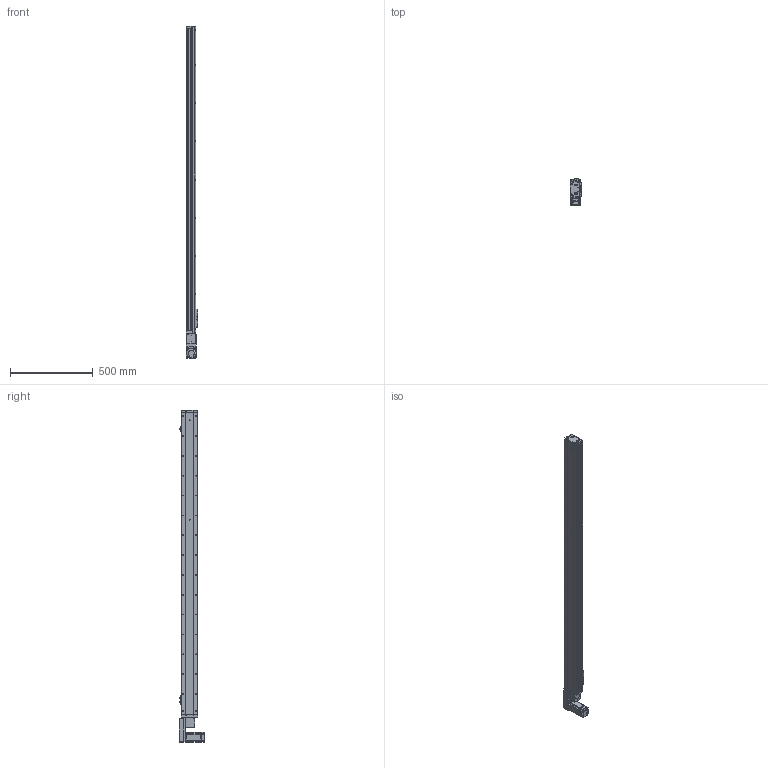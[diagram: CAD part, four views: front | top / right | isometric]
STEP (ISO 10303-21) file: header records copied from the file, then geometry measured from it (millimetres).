
FILE_DESCRIPTION (( 'STEP AP214' ), '1' );
FILE_NAME ('KSD100B-S1650-MLB-CR.STEP', '2019-11-13T01:21:36', ( '微软用户' ), ( '微软中国' ), 'SwSTEP 2.0', 'SolidWorks 2014', '' );
FILE_SCHEMA (( 'AUTOMOTIVE_DESIGN' ));
Length unit declared in the file: millimetre
Products named in the file (15): 100宽马达安装板连板上下折丝杆同步带; 感应片100宽全封闭; U倰嫖萇EEㄜSX672; 100宽马达安装板同步带左; 100遵鎮湛假蚾啣蜊; 100宽端板同步带全封闭; 100宽滚珠螺姆安装板1防护罩; 100宽滚珠螺姆安装板1; MHMD042G1CA_2_03; 100遵裔啣揤啣; 100遵裔啣1650俴最; 100宽侧板1650行程同步带; 100宽底板全封闭1650行程同步带; KSD100B-S1650-MLB-CR; 悵誘欶奻狟殏
Assembly tree (18 placements, depth 2):
  KSD100B-S1650-MLB-CR
    100宽底板全封闭1650行程同步带
    100宽侧板1650行程同步带  x2
    100遵裔啣1650俴最
    100遵裔啣揤啣  x2
    100宽滚珠螺姆安装板1
    100宽滚珠螺姆安装板1防护罩
    100宽端板同步带全封闭
    100遵鎮湛假蚾啣蜊
    100宽马达安装板同步带左
    U倰嫖萇EEㄜSX672  x3
    感应片100宽全封闭
    100宽马达安装板连板上下折丝杆同步带
    悵誘欶奻狟殏
    MHMD042G1CA_2_03
Bounding box: 70 x 156.2 x 2007 mm (x, y, z)
Volume: 3661575.5 mm3; surface area: 1597029.4 mm2
Topology: 17 solids, 18 shells, 2001 faces, 5604 edges, 3535 vertices
Faces by surface type: cylinder 917, plane 741, cone 323, bspline 20
Entity records: 71268 total; most frequent: CARTESIAN_POINT 11092, DIRECTION 9766, ORIENTED_EDGE 8956, EDGE_CURVE 4550, AXIS2_PLACEMENT_3D 3579, VERTEX_POINT 3013, VECTOR 2608, LINE 2608
